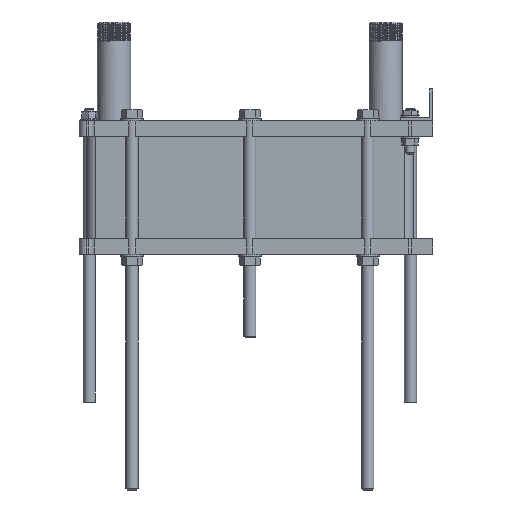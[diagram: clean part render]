
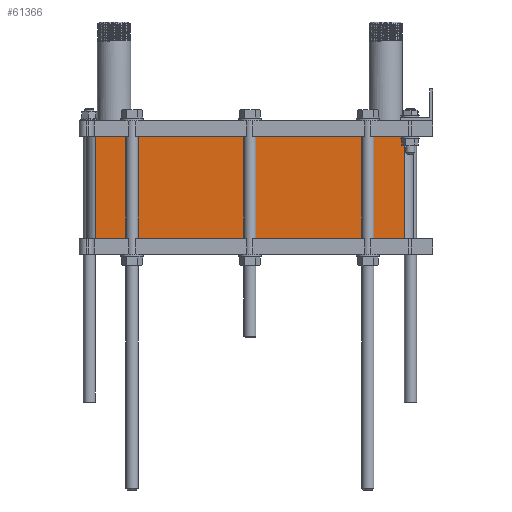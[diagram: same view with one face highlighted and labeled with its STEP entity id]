
A CAD part, left-side view. The second image highlights one B-rep face of the part: STEP entity #61366.
In plain terms, the highlighted planar face has unit normal (-1, 0, 0).
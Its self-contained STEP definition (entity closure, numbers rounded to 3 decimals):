
#1778 = LINE ( 'NONE', #4742, #27153 ) ;
#3269 = EDGE_CURVE ( 'NONE', #75828, #54548, #20026, .T. ) ;
#3737 = CARTESIAN_POINT ( 'NONE',  ( 26.5, 37.159, -197. ) ) ;
#4742 = CARTESIAN_POINT ( 'NONE',  ( 26.5, 240.5, -197. ) ) ;
#4958 = CARTESIAN_POINT ( 'NONE',  ( 26.5, 37.159, -62. ) ) ;
#5627 = DIRECTION ( 'NONE',  ( 0., 0., -1. ) ) ;
#9000 = VERTEX_POINT ( 'NONE', #82182 ) ;
#10315 = CARTESIAN_POINT ( 'NONE',  ( 26.5, 443.841, -62. ) ) ;
#11621 = VECTOR ( 'NONE', #26833, 1000. ) ;
#14123 = CARTESIAN_POINT ( 'NONE',  ( 26.5, 240.5, -62. ) ) ;
#20026 = LINE ( 'NONE', #4958, #99690 ) ;
#21053 = EDGE_CURVE ( 'NONE', #9000, #64283, #32171, .T. ) ;
#21221 = CARTESIAN_POINT ( 'NONE',  ( 26.5, 37.159, -62. ) ) ;
#21783 = EDGE_CURVE ( 'NONE', #54548, #64283, #1778, .T. ) ;
#26833 = DIRECTION ( 'NONE',  ( 0., 0., -1. ) ) ;
#27153 = VECTOR ( 'NONE', #97825, 1000. ) ;
#30088 = ORIENTED_EDGE ( 'NONE', *, *, #3269, .F. ) ;
#31644 = AXIS2_PLACEMENT_3D ( 'NONE', #21221, #73505, #90321 ) ;
#32171 = LINE ( 'NONE', #10315, #11621 ) ;
#34755 = ORIENTED_EDGE ( 'NONE', *, *, #21053, .T. ) ;
#38649 = FACE_OUTER_BOUND ( 'NONE', #74792, .T. ) ;
#42624 = EDGE_CURVE ( 'NONE', #9000, #75828, #59437, .T. ) ;
#44268 = CARTESIAN_POINT ( 'NONE',  ( 26.5, 443.841, -197. ) ) ;
#50277 = PLANE ( 'NONE',  #31644 ) ;
#54548 = VERTEX_POINT ( 'NONE', #3737 ) ;
#55936 = ORIENTED_EDGE ( 'NONE', *, *, #21783, .F. ) ;
#59437 = LINE ( 'NONE', #14123, #60692 ) ;
#60692 = VECTOR ( 'NONE', #83613, 1000. ) ;
#60693 = CARTESIAN_POINT ( 'NONE',  ( 26.5, 37.159, -62. ) ) ;
#61366 = ADVANCED_FACE ( 'NONE', ( #38649 ), #50277, .T. ) ;
#64283 = VERTEX_POINT ( 'NONE', #44268 ) ;
#73505 = DIRECTION ( 'NONE',  ( -1., 0., 0. ) ) ;
#74792 = EDGE_LOOP ( 'NONE', ( #91369, #34755, #55936, #30088 ) ) ;
#75828 = VERTEX_POINT ( 'NONE', #60693 ) ;
#82182 = CARTESIAN_POINT ( 'NONE',  ( 26.5, 443.841, -62. ) ) ;
#83613 = DIRECTION ( 'NONE',  ( 0., -1., 0. ) ) ;
#90321 = DIRECTION ( 'NONE',  ( 0., 1., 0. ) ) ;
#91369 = ORIENTED_EDGE ( 'NONE', *, *, #42624, .F. ) ;
#97825 = DIRECTION ( 'NONE',  ( 0., 1., 0. ) ) ;
#99690 = VECTOR ( 'NONE', #5627, 1000. ) ;
